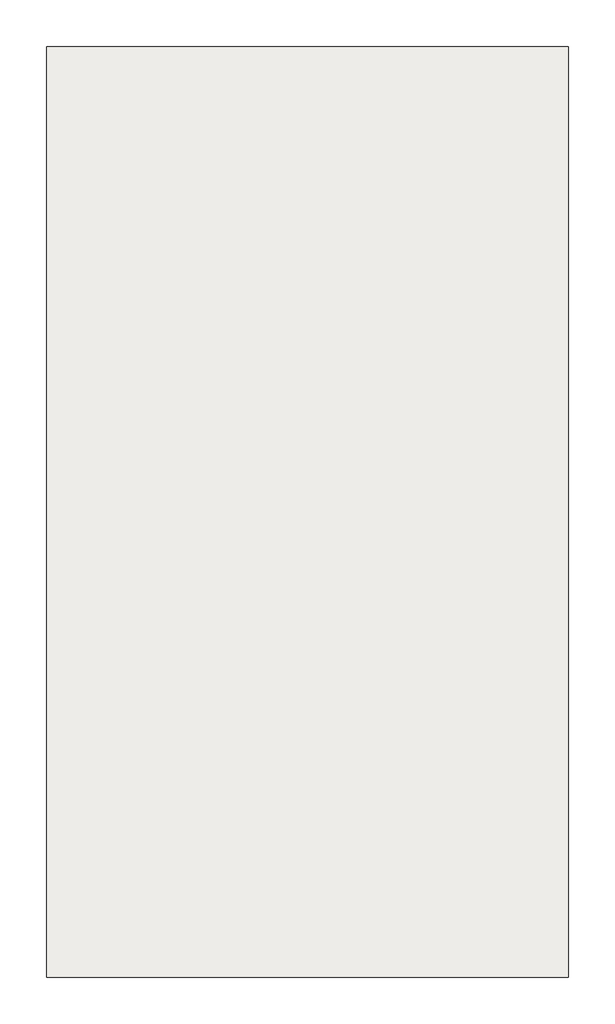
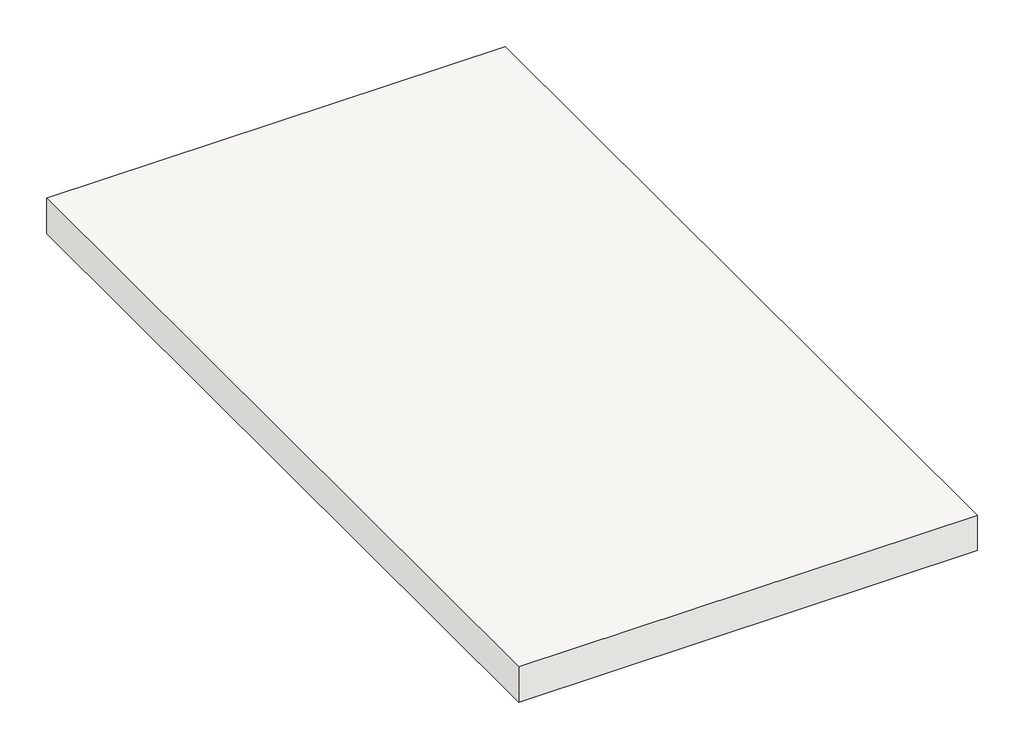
# One storey: 1 slab.
"""IFC4 building model written with IfcOpenShell, lengths in millimetres."""

from ifc_helpers import new_model, si_unit, frame, origin, place, context, project, spatial, polyline, outline, extrude, element, save

model = new_model("IFC4")

# Units and contexts
model_context = context("Model", 3, world=origin())
ifc_project = project(units=[si_unit("LENGTHUNIT", "METRE", prefix="MILLI")], contexts=[model_context])

# Site, building, storey
site = spatial("IfcSite", under=ifc_project)
building = spatial("IfcBuilding", under=site)
storey = spatial("IfcBuildingStorey", under=building, Name="Nível 2", Elevation=3000.0)

# Slab
placement = place(None, origin())
element("IfcSlab", 1, ObjectType="Genérico 150 mm", at=placement, inside=storey, context=model_context, shape_type="SweptSolid", body=[
    extrude(outline(polyline([(318.0195766, 2599.1357023), (318.0195766, -697.5642977), (-1531.9804234, -697.5642977), (-1531.9804234, 2599.1357023), (318.0195766, 2599.1357023)])), frame((0.0, 0.0, 2850.0), z_axis=(0.0, 0.0, 1.0), x_axis=(1.0, 0.0, 0.0)), (0.0, 0.0, 1.0), 150.0),
])

save(model, "model.ifc")
